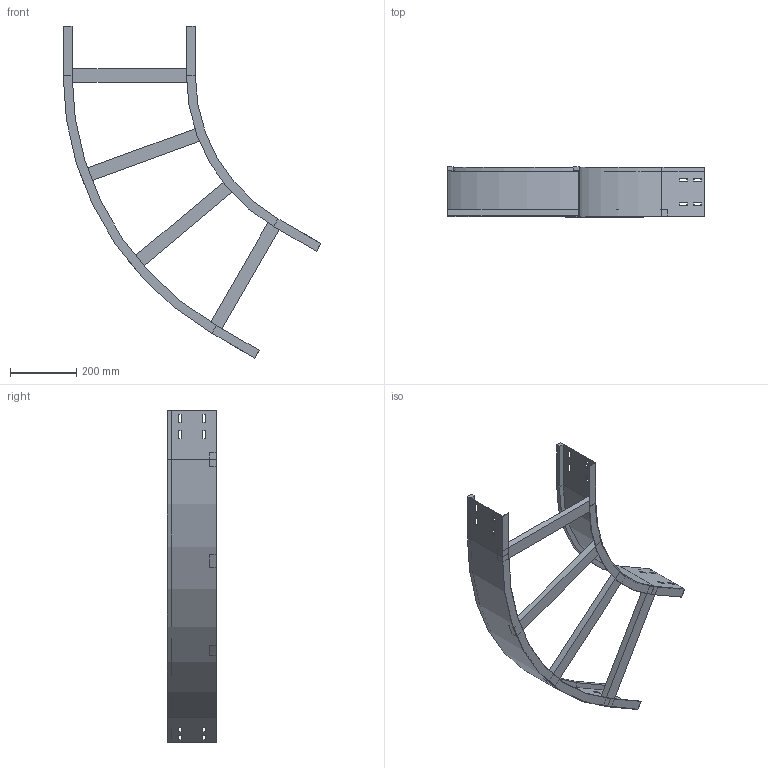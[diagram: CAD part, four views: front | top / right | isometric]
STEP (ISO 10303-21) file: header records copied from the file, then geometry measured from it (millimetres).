
FILE_DESCRIPTION (( 'STEP AP214' ), '1' );
FILE_NAME ('13J5F400.step', '2025-02-21T16:24:42', ( '' ), ( '' ), 'SwSTEP 2.0', 'SolidWorks 2023', '' );
FILE_SCHEMA (( 'AUTOMOTIVE_DESIGN' ));
Length unit declared in the file: millimetre
Products named in the file (4): LONGH.ESTERNO 60°_H150_R500+400; LONGH.INTERNO 60°_H150_R500; 13J5F400; TRAVERSINO_400
Assembly tree (6 placements, depth 2):
  13J5F400
    LONGH.INTERNO 60°_H150_R500
    LONGH.ESTERNO 60°_H150_R500+400
    TRAVERSINO_400  x4
Bounding box: 779.9 x 150 x 1004.42 mm (x, y, z)
Volume: 2395653.5 mm3; surface area: 992793.6 mm2
Topology: 6 solids, 6 shells, 140 faces, 352 edges, 224 vertices
Faces by surface type: plane 132, cylinder 8
Entity records: 3829 total; most frequent: CARTESIAN_POINT 647, ORIENTED_EDGE 632, DIRECTION 594, EDGE_CURVE 316, LINE 300, VECTOR 300, VERTEX_POINT 200, EDGE_LOOP 154
